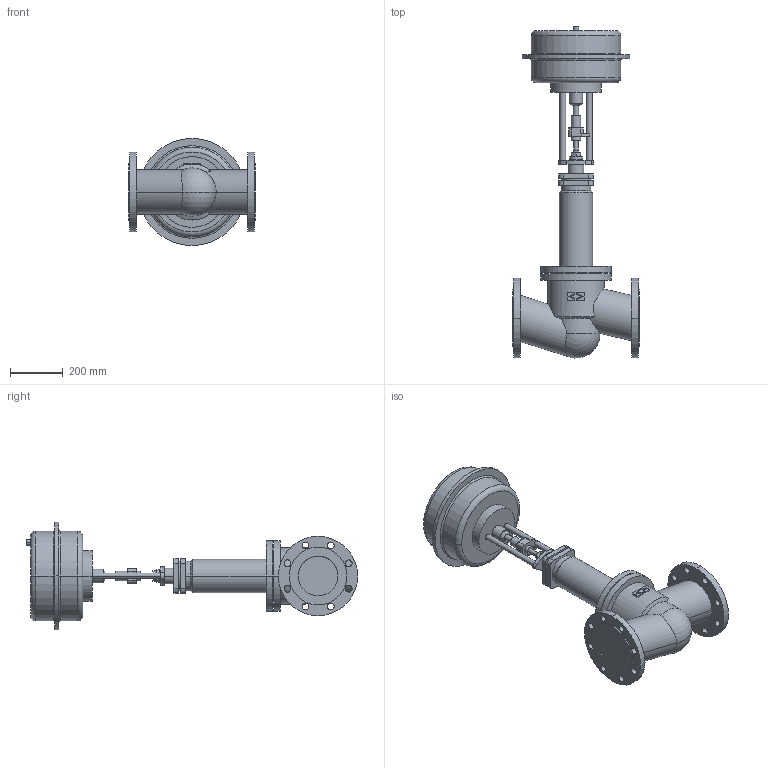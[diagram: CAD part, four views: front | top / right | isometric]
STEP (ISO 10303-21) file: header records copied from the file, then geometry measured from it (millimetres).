
FILE_DESCRIPTION(('CoCreate Modeling STEP Export'),'2;1');
FILE_NAME('c000004831.stp','2011-10-26T 8:19:07',(''),(''),'CoCreate Modeling STEP processor for AP214 (Solid Model)','CoCreate Modeling 17.0 01-Apr-2010 (C) Parametric Technology GmbH','');
FILE_SCHEMA(('AUTOMOTIVE_DESIGN { 1 0 10303 214 1 1 1 1 }'));
Length unit declared in the file: millimetre
Products named in the file (2): 1; 2
Bounding box: 480 x 1254.97 x 405 mm (x, y, z)
Volume: 44441522.5 mm3; surface area: 1485446.4 mm2
Topology: 2 solids, 2 shells, 210 faces, 511 edges, 336 vertices
Faces by surface type: cylinder 112, plane 80, torus 10, cone 6, sphere 2
Entity records: 7503 total; most frequent: CARTESIAN_POINT 1214, ORIENTED_EDGE 1018, DIRECTION 843, EDGE_CURVE 509, VERTEX_POINT 336, AXIS2_PLACEMENT_3D 302, EDGE_LOOP 275, VECTOR 239
